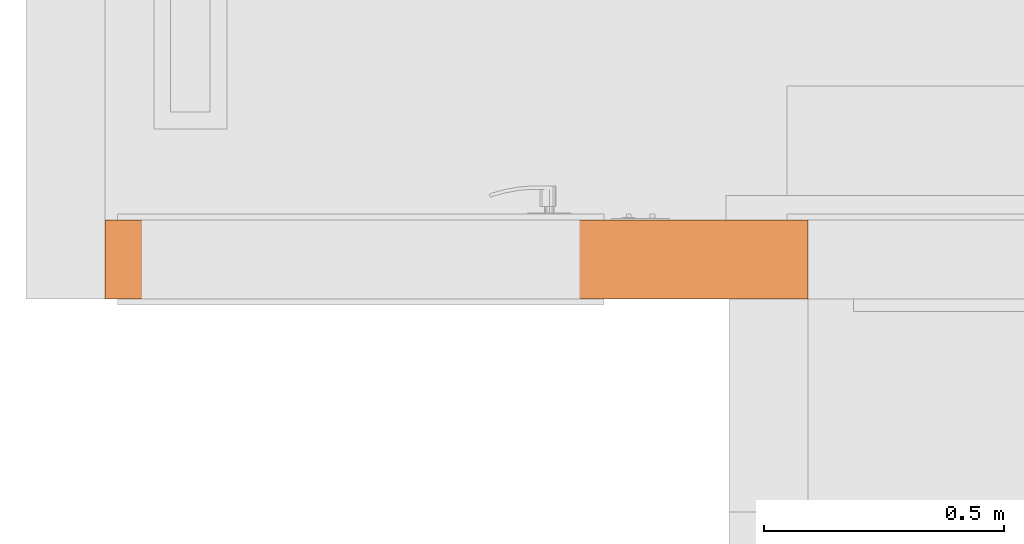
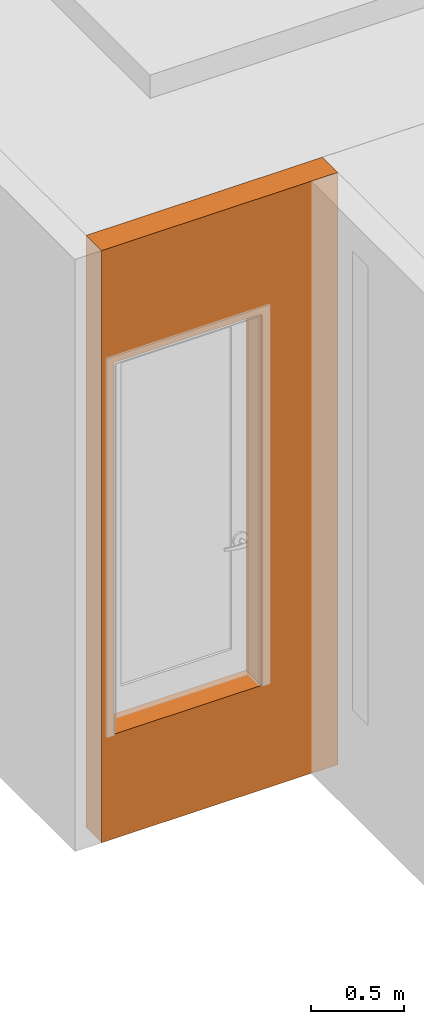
# One storey, part 84 of 103: 1 proxy.
"""IFC2X3 building model written with IfcOpenShell, lengths in inches."""

from ifc_helpers import new_model, entity, si_unit, converted_unit, derived_unit, money_unit, direction, frame, origin_with_axes, place, context, subcontext, project, spatial, faceted_brep, material, type_object, element, save


model = new_model("IFC2X3")

# Units and contexts
model_context = context("Model", 3, precision=0.00039370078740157, world=origin_with_axes(), true_north=direction((0.0, 1.0)))
plan_context = context("Plan", 3, precision=0.00039370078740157, world=origin_with_axes(), true_north=direction((0.0, 1.0)))
body_context = subcontext(model_context, "Body", "Model", "MODEL_VIEW")
ifc_project = project(units=[converted_unit("LENGTHUNIT", "INCH", entity("IfcPositiveLengthMeasure", 0.0254), si_unit("LENGTHUNIT", "METRE"), dimensions=[1, 0, 0, 0, 0, 0, 0]), converted_unit("AREAUNIT", "SQUARE_FOOT", entity("IfcPositiveLengthMeasure", 0.09290304), si_unit("AREAUNIT", "SQUARE_METRE"), dimensions=[2, 0, 0, 0, 0, 0, 0]), si_unit("PLANEANGLEUNIT", "RADIAN"), si_unit("SOLIDANGLEUNIT", "STERADIAN"), money_unit("USD"), converted_unit("TIMEUNIT", "Year", entity("IfcTimeMeasure", 31557600.0), si_unit("TIMEUNIT", "SECOND"), dimensions=[0, 0, 1, 0, 0, 0, 0]), si_unit("MASSUNIT", "GRAM", prefix="KILO"), si_unit("THERMODYNAMICTEMPERATUREUNIT", "DEGREE_CELSIUS"), si_unit("LUMINOUSINTENSITYUNIT", "LUMEN"), si_unit("ENERGYUNIT", "JOULE", prefix="MEGA"), derived_unit("SPECIFICHEATCAPACITYUNIT", [(si_unit("ENERGYUNIT", "JOULE"), 1), (si_unit("MASSUNIT", "GRAM", prefix="KILO"), -1), (si_unit("THERMODYNAMICTEMPERATUREUNIT", "KELVIN"), -1)])], contexts=[model_context, plan_context])

# Site, building, storey
site_placement = place(None, origin_with_axes())
site = spatial("IfcSite", under=ifc_project, at=site_placement, Name="Site", CompositionType="ELEMENT")
building_placement = place(site_placement, origin_with_axes())
building = spatial("IfcBuilding", under=site, at=building_placement, Name="Building", CompositionType="ELEMENT")
storey_placement = place(building_placement, frame((0.0, 0.0, 127.9999999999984), z_axis=(0.0, 0.0, 1.0), x_axis=(1.0, 0.0, 0.0)))
storey = spatial("IfcBuildingStorey", under=building, at=storey_placement, Name="Second Floor", CompositionType="ELEMENT", Elevation=128.0)

# Proxy
ifc_material = material(Name="Generic - Structural")
building_element_proxy_type = type_object("IfcBuildingElementProxyType", Name="Generic - Structural 6 1/2\"", PredefinedType="NOTDEFINED")
proxy_placement = place(storey_placement, frame((-197.9999999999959, 378.9999999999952, -26.99999999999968), z_axis=(0.0, 0.0, 1.0), x_axis=(-1.0, 0.0, 0.0)))
element("IfcBuildingElementProxy", 1, at=proxy_placement, inside=storey, type_object=building_element_proxy_type, material=ifc_material, Name="SW - 120", context=body_context, shape_type="Brep", body=[
    faceted_brep([(57.74999999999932, 6.499999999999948, 0.0), (0.0, 6.499999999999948, 0.0), (0.0, 6.499999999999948, 152.9999999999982), (57.74999999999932, 6.499999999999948, 152.9999999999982), (54.74999999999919, 6.499999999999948, 26.99999999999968), (54.74999999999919, 6.499999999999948, 122.9999999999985), (18.74999999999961, 6.499999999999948, 122.9999999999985), (18.74999999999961, 6.499999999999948, 26.99999999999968), (57.74999999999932, 0.0, 0.0), (0.0, 0.0, 0.0), (0.0, 0.0, 152.9999999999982), (57.74999999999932, 0.0, 152.9999999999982), (54.74999999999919, 0.0, 26.99999999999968), (54.74999999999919, 0.0, 122.9999999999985), (18.74999999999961, 0.0, 122.9999999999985), (18.74999999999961, 0.0, 26.99999999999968)], [[[0, 1, 2, 3], [4, 5, 6, 7]], [[8, 9, 1, 0]], [[10, 2, 1, 9]], [[3, 2, 10, 11]], [[11, 8, 0, 3]], [[12, 13, 5, 4]], [[13, 14, 6, 5]], [[14, 15, 7, 6]], [[15, 12, 4, 7]], [[11, 10, 9, 8], [12, 15, 14, 13]]]),
])

save(model, "model.ifc")
